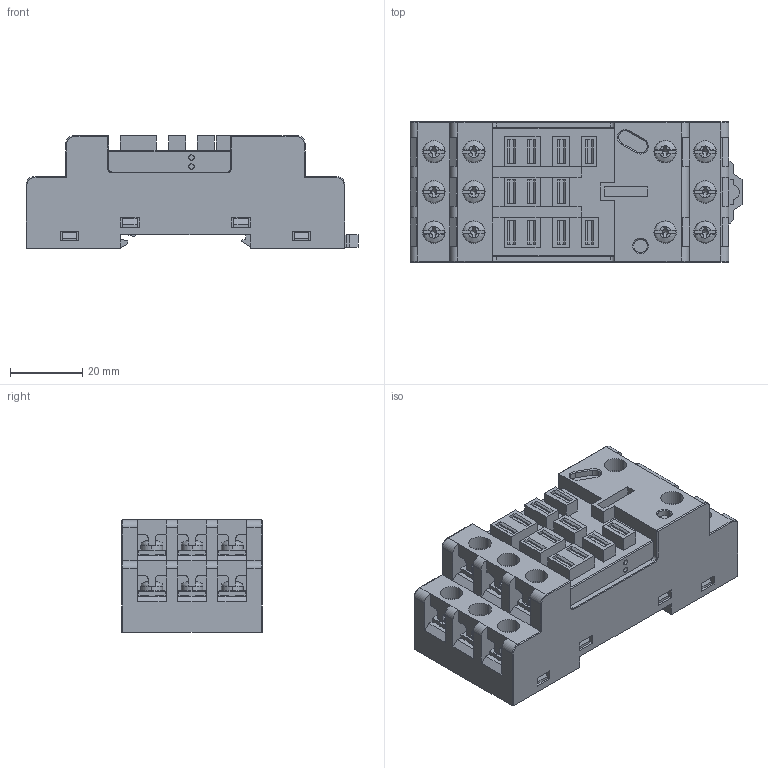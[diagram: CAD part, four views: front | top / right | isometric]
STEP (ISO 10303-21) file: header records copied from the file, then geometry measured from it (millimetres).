
FILE_DESCRIPTION (( 'STEP AP203' ), '1' );
FILE_NAME ('SEB11-E 俋倛.STEP', '2023-01-07T08:40:11', ( '' ), ( '' ), 'SwSTEP 2.0', 'SolidWorks 2018', '' );
FILE_SCHEMA (( 'CONFIG_CONTROL_DESIGN' ));
Products named in the file (1): SEB11-E 俋倛
Bounding box: 91.6 x 38.7 x 31 mm (x, y, z)
Volume: 75128.6 mm3; surface area: 25585.3 mm2
Topology: 1 solids, 18 shells, 1634 faces, 4533 edges, 2932 vertices
Faces by surface type: plane 1223, cylinder 212, cone 115, bspline 72, torus 12
Entity records: 71658 total; most frequent: CARTESIAN_POINT 30951, ORIENTED_EDGE 9022, DIRECTION 7600, EDGE_CURVE 4511, VECTOR 3196, LINE 3196, VERTEX_POINT 2932, AXIS2_PLACEMENT_3D 2202
